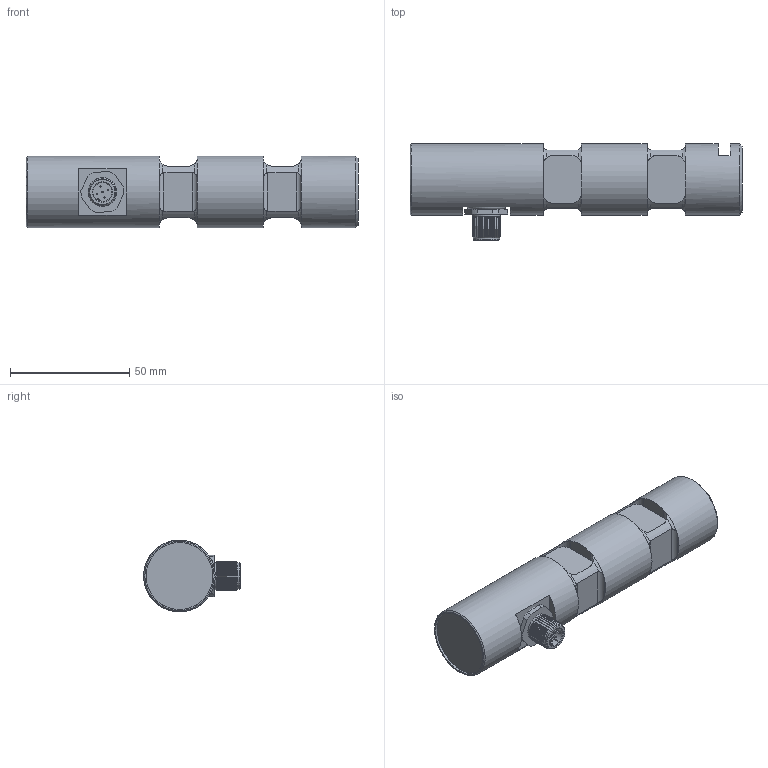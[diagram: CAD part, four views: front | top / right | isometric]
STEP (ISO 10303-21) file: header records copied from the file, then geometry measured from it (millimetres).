
FILE_DESCRIPTION(/* description */ ('Alibre Inc.'),/* implementation_level */ '2;1');
FILE_NAME(/* name */ 'export-F036C33B-76D0-4AFD-957E-DA5FA9ED214F',/* time_stamp */ '2020-02-21T12:04:28+01:00',/* author */ (''),/* organization */ (''),/* preprocessor_version */ 'ST-DEVELOPER v17',/* originating_system */ 'Alibre',/* authorisation */ '');
FILE_SCHEMA (('CONFIG_CONTROL_DESIGN'));
Length unit declared in the file: centimetre
Bounding box: 139 x 40.5 x 30 mm (x, y, z)
Surface area: 169067.8 mm2
Topology: 7 solids, 8 shells, 256 faces, 566 edges, 334 vertices
Faces by surface type: cylinder 88, plane 79, cone 71, torus 18
Full cylindrical faces by diameter (mm): 0.5 x10, 8 x2, 10 x1, 11 x1, 11.5 x1, 12 x21, 13 x2, 14.5 x1, 28 x1, 30 x3
Entity records: 6392 total; most frequent: CARTESIAN_POINT 1653, ORIENTED_EDGE 926, DIRECTION 738, EDGE_CURVE 457, EDGE_LOOP 371, FACE_BOUND 371, AXIS2_PLACEMENT_3D 341, VERTEX_POINT 320
